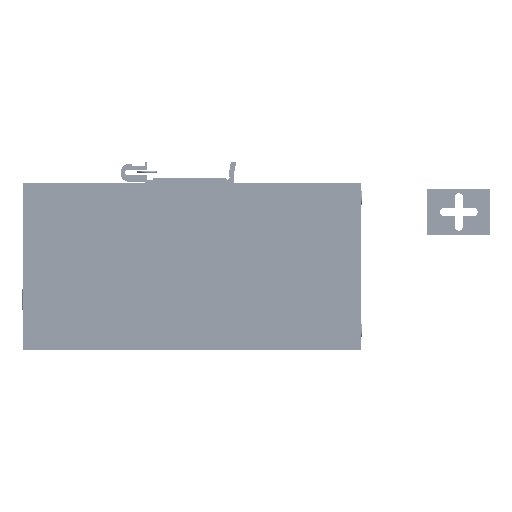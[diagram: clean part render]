
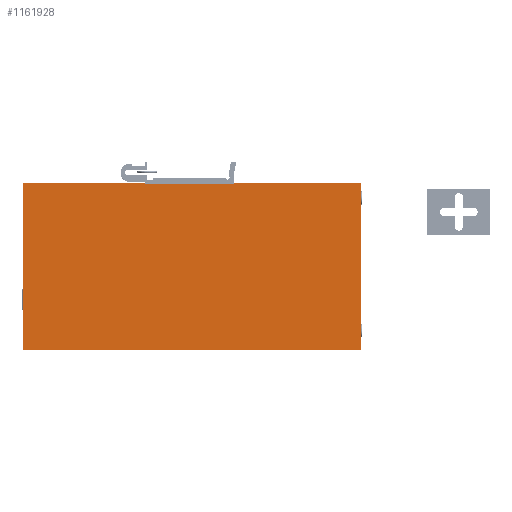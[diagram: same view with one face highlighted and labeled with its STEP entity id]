
A CAD part, top view. The second image highlights one B-rep face of the part: STEP entity #1161928.
In plain terms, the highlighted planar face has unit normal (0, 0, 1).
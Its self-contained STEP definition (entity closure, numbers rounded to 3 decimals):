
#1160706 = VERTEX_POINT('',#1160707);
#1160707 = CARTESIAN_POINT('',(-1.,-1.,25.));
#1160722 = VERTEX_POINT('',#1160723);
#1160723 = CARTESIAN_POINT('',(-1.,67.7,25.));
#1160729 = EDGE_CURVE('',#1160706,#1160722,#1160730,.T.);
#1160730 = LINE('',#1160731,#1160732);
#1160731 = CARTESIAN_POINT('',(-1.,-1.,25.));
#1160732 = VECTOR('',#1160733,1.);
#1160733 = DIRECTION('',(0.,1.,0.));
#1160972 = EDGE_CURVE('',#1160706,#1160973,#1160975,.T.);
#1160973 = VERTEX_POINT('',#1160974);
#1160974 = CARTESIAN_POINT('',(138.,-1.,25.));
#1160975 = LINE('',#1160976,#1160977);
#1160976 = CARTESIAN_POINT('',(-1.,-1.,25.));
#1160977 = VECTOR('',#1160978,1.);
#1160978 = DIRECTION('',(1.,0.,0.));
#1161887 = EDGE_CURVE('',#1160722,#1161888,#1161890,.T.);
#1161888 = VERTEX_POINT('',#1161889);
#1161889 = CARTESIAN_POINT('',(138.,67.7,25.));
#1161890 = LINE('',#1161891,#1161892);
#1161891 = CARTESIAN_POINT('',(-1.,67.7,25.));
#1161892 = VECTOR('',#1161893,1.);
#1161893 = DIRECTION('',(1.,0.,0.));
#1161928 = ADVANCED_FACE('',(#1161929),#1161940,.T.);
#1161929 = FACE_BOUND('',#1161930,.T.);
#1161930 = EDGE_LOOP('',(#1161931,#1161932,#1161933,#1161939));
#1161931 = ORIENTED_EDGE('',*,*,#1160729,.F.);
#1161932 = ORIENTED_EDGE('',*,*,#1160972,.T.);
#1161933 = ORIENTED_EDGE('',*,*,#1161934,.T.);
#1161934 = EDGE_CURVE('',#1160973,#1161888,#1161935,.T.);
#1161935 = LINE('',#1161936,#1161937);
#1161936 = CARTESIAN_POINT('',(138.,-1.,25.));
#1161937 = VECTOR('',#1161938,1.);
#1161938 = DIRECTION('',(0.,1.,0.));
#1161939 = ORIENTED_EDGE('',*,*,#1161887,.F.);
#1161940 = PLANE('',#1161941);
#1161941 = AXIS2_PLACEMENT_3D('',#1161942,#1161943,#1161944);
#1161942 = CARTESIAN_POINT('',(-1.,-1.,25.));
#1161943 = DIRECTION('',(0.,0.,1.));
#1161944 = DIRECTION('',(1.,0.,0.));
